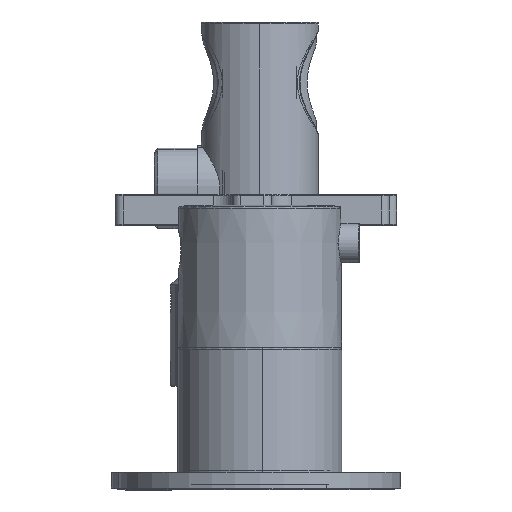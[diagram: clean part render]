
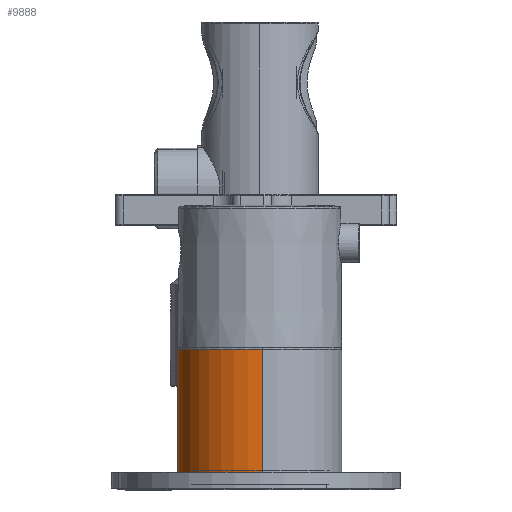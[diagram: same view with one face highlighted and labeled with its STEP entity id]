
A CAD part, front view. The second image highlights one B-rep face of the part: STEP entity #9888.
In plain terms, the highlighted cylindrical face has radius 21 mm (diameter 42 mm), a partial arc.
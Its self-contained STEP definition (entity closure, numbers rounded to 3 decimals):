
#420 = DIRECTION ( 'NONE',  ( 0., -1., 0. ) ) ;
#859 = CARTESIAN_POINT ( 'NONE',  ( 0., 31.5, 0. ) ) ;
#1586 = VERTEX_POINT ( 'NONE', #8519 ) ;
#2197 = ORIENTED_EDGE ( 'NONE', *, *, #3541, .T. ) ;
#2515 = DIRECTION ( 'NONE',  ( 0., -1., 0. ) ) ;
#3045 = AXIS2_PLACEMENT_3D ( 'NONE', #23906, #19290, #12293 ) ;
#3541 = EDGE_CURVE ( 'NONE', #1586, #4363, #13252, .T. ) ;
#4106 = ORIENTED_EDGE ( 'NONE', *, *, #28612, .F. ) ;
#4363 = VERTEX_POINT ( 'NONE', #19525 ) ;
#4440 = DIRECTION ( 'NONE',  ( 0., 0., -1. ) ) ;
#4924 = AXIS2_PLACEMENT_3D ( 'NONE', #859, #420, #9518 ) ;
#6129 = CARTESIAN_POINT ( 'NONE',  ( 0., 0., 21. ) ) ;
#6513 = FACE_OUTER_BOUND ( 'NONE', #10019, .T. ) ;
#7123 = DIRECTION ( 'NONE',  ( 0., -1., 0. ) ) ;
#7298 = CARTESIAN_POINT ( 'NONE',  ( 0., 32., 21. ) ) ;
#8519 = CARTESIAN_POINT ( 'NONE',  ( 0., 31.5, -21. ) ) ;
#8854 = VECTOR ( 'NONE', #2515, 1000. ) ;
#9083 = CARTESIAN_POINT ( 'NONE',  ( 0., 32., -21. ) ) ;
#9518 = DIRECTION ( 'NONE',  ( 0., 0., -1. ) ) ;
#9888 = ADVANCED_FACE ( 'NONE', ( #6513 ), #24825, .T. ) ;
#10019 = EDGE_LOOP ( 'NONE', ( #4106, #19343, #2197, #26507 ) ) ;
#10483 = AXIS2_PLACEMENT_3D ( 'NONE', #27485, #7123, #4440 ) ;
#10909 = VERTEX_POINT ( 'NONE', #19636 ) ;
#12293 = DIRECTION ( 'NONE',  ( 0., 0., -1. ) ) ;
#13252 = LINE ( 'NONE', #9083, #21498 ) ;
#14434 = EDGE_CURVE ( 'NONE', #10909, #1586, #20124, .T. ) ;
#15043 = EDGE_CURVE ( 'NONE', #4363, #24705, #18719, .T. ) ;
#15917 = DIRECTION ( 'NONE',  ( 0., -1., 0. ) ) ;
#18719 = CIRCLE ( 'NONE', #3045, 21. ) ;
#19290 = DIRECTION ( 'NONE',  ( 0., 1., 0. ) ) ;
#19343 = ORIENTED_EDGE ( 'NONE', *, *, #14434, .T. ) ;
#19525 = CARTESIAN_POINT ( 'NONE',  ( 0., 0., -21. ) ) ;
#19636 = CARTESIAN_POINT ( 'NONE',  ( 0., 31.5, 21. ) ) ;
#20124 = CIRCLE ( 'NONE', #4924, 21. ) ;
#21498 = VECTOR ( 'NONE', #15917, 1000. ) ;
#22914 = LINE ( 'NONE', #7298, #8854 ) ;
#23906 = CARTESIAN_POINT ( 'NONE',  ( 0., 0., 0. ) ) ;
#24705 = VERTEX_POINT ( 'NONE', #6129 ) ;
#24825 = CYLINDRICAL_SURFACE ( 'NONE', #10483, 21. ) ;
#26507 = ORIENTED_EDGE ( 'NONE', *, *, #15043, .T. ) ;
#27485 = CARTESIAN_POINT ( 'NONE',  ( 0., 32., 0. ) ) ;
#28612 = EDGE_CURVE ( 'NONE', #10909, #24705, #22914, .T. ) ;
